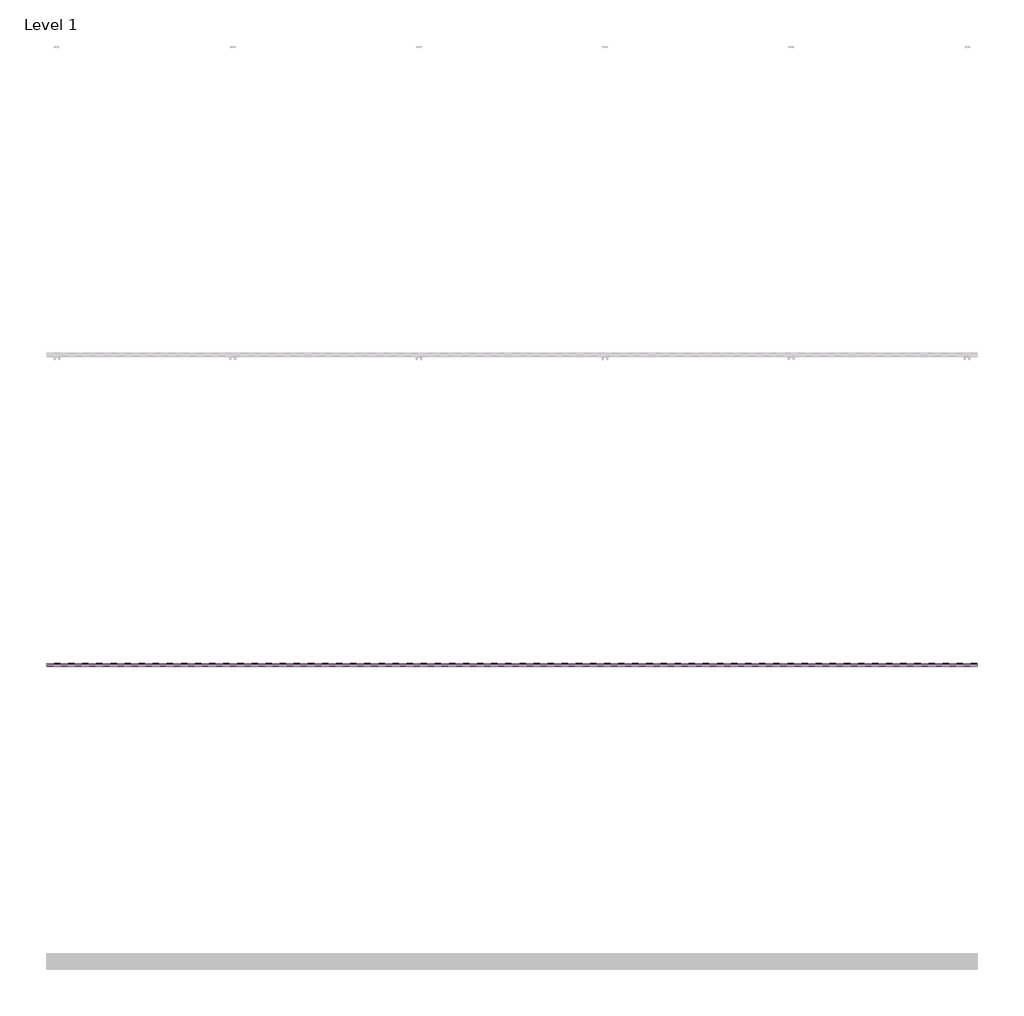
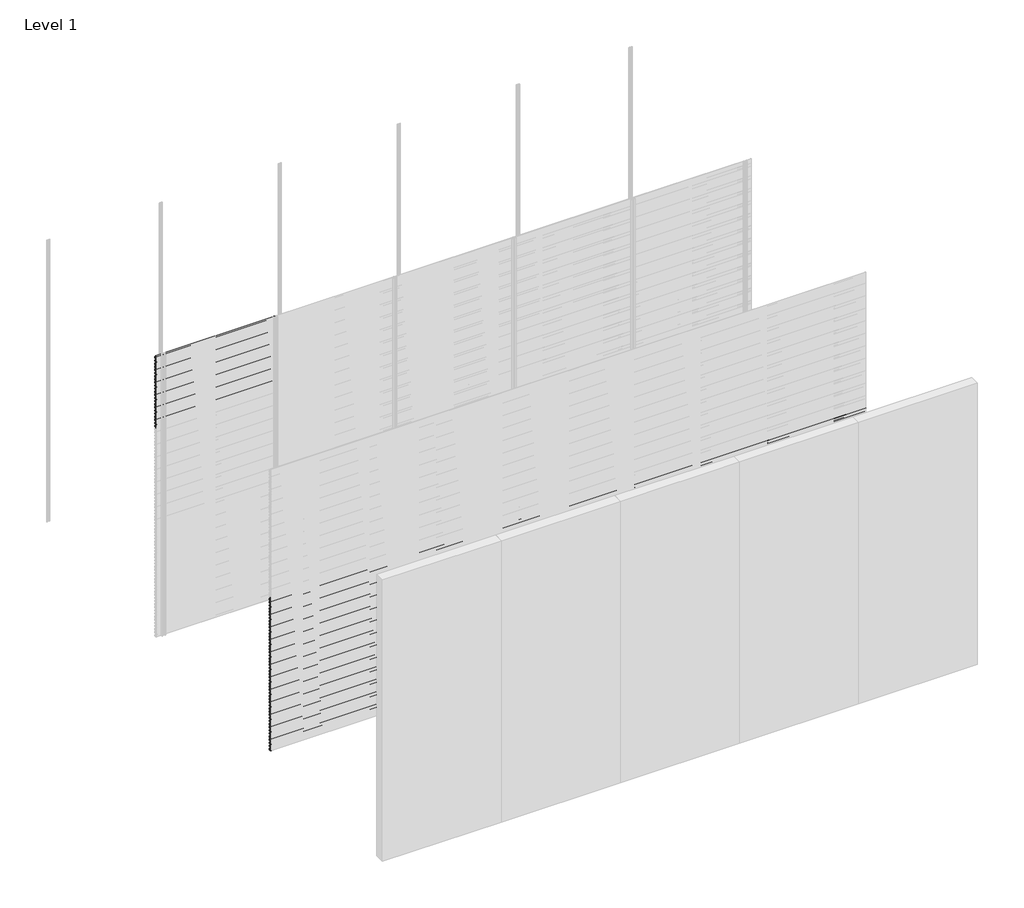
# One storey, part 64 of 77: 72 proxies.
"""IFC4 building model written with IfcOpenShell, lengths in millimetres."""

from ifc_helpers import new_model, si_unit, frame, origin, place, context, project, spatial, polyline, outline, extrude, element, save

model = new_model("IFC4")

# Units and contexts
model_context = context("Model", 3, world=origin())
ifc_project = project(units=[si_unit("LENGTHUNIT", "METRE", prefix="MILLI")], contexts=[model_context])

# Site, building, storey
site = spatial("IfcSite", under=ifc_project)
building = spatial("IfcBuilding", under=site)
storey = spatial("IfcBuildingStorey", under=building, Name="Level 1", Elevation=0.0)

# Proxies
placement = place(None, origin())
element("IfcBuildingElementProxy", 1, Name="Wall Sweeps", at=placement, inside=storey, context=model_context, shape_type="SweptSolid", body=[
    extrude(outline(polyline([(-5978.6, 2972.5359887), (-5998.0, 2983.7366691), (-5998.0, 2997.0), (-5997.0, 2997.0), (-5997.0, 2984.3191057), (-5977.6, 2973.1185105), (-5977.6, 2959.5185105), (-5978.6, 2961.0953129), (-5978.6, 2966.9032062), (-5995.9773817, 2958.8), (-5996.4, 2959.7063078), (-5978.6, 2968.0065841), (-5978.6, 2972.5359887)])), frame((0.0, 0.0, 0.0), z_axis=(1.0, 0.0, 0.0), x_axis=(0.0, 1.0, 0.0)), (0.0, 0.0, 1.0), 1200.0),
])
element("IfcBuildingElementProxy", 2, Name="Wall Sweeps", at=placement, inside=storey, context=model_context, shape_type="SweptSolid", body=[
    extrude(outline(polyline([(-5978.6, 2939.2359887), (-5998.0, 2950.4366691), (-5998.0, 2963.7), (-5997.0, 2963.7), (-5997.0, 2951.0191057), (-5977.6, 2939.8185105), (-5977.6, 2926.2185105), (-5978.6, 2927.7953129), (-5978.6, 2933.6032062), (-5995.9773817, 2925.5), (-5996.4, 2926.4063078), (-5978.6, 2934.7065841), (-5978.6, 2939.2359887)])), frame((0.0, 0.0, 0.0), z_axis=(1.0, 0.0, 0.0), x_axis=(0.0, 1.0, 0.0)), (0.0, 0.0, 1.0), 1200.0),
])
element("IfcBuildingElementProxy", 3, Name="Wall Sweeps", at=placement, inside=storey, context=model_context, shape_type="SweptSolid", body=[
    extrude(outline(polyline([(-5978.6, 2905.9359887), (-5998.0, 2917.1366691), (-5998.0, 2930.4), (-5997.0, 2930.4), (-5997.0, 2917.7191057), (-5977.6, 2906.5185105), (-5977.6, 2892.9185105), (-5978.6, 2894.4953129), (-5978.6, 2900.3032062), (-5995.9773817, 2892.2), (-5996.4, 2893.1063078), (-5978.6, 2901.4065841), (-5978.6, 2905.9359887)])), frame((0.0, 0.0, 0.0), z_axis=(1.0, 0.0, 0.0), x_axis=(0.0, 1.0, 0.0)), (0.0, 0.0, 1.0), 1200.0),
])
element("IfcBuildingElementProxy", 4, Name="Wall Sweeps", at=placement, inside=storey, context=model_context, shape_type="SweptSolid", body=[
    extrude(outline(polyline([(-5978.6, 2872.6359887), (-5998.0, 2883.8366691), (-5998.0, 2897.1), (-5997.0, 2897.1), (-5997.0, 2884.4191057), (-5977.6, 2873.2185105), (-5977.6, 2859.6185105), (-5978.6, 2861.1953129), (-5978.6, 2867.0032062), (-5995.9773817, 2858.9), (-5996.4, 2859.8063078), (-5978.6, 2868.1065841), (-5978.6, 2872.6359887)])), frame((0.0, 0.0, 0.0), z_axis=(1.0, 0.0, 0.0), x_axis=(0.0, 1.0, 0.0)), (0.0, 0.0, 1.0), 1200.0),
])
element("IfcBuildingElementProxy", 5, Name="Wall Sweeps", at=placement, inside=storey, context=model_context, shape_type="SweptSolid", body=[
    extrude(outline(polyline([(-5978.6, 2839.3359887), (-5998.0, 2850.5366691), (-5998.0, 2863.8), (-5997.0, 2863.8), (-5997.0, 2851.1191057), (-5977.6, 2839.9185105), (-5977.6, 2826.3185105), (-5978.6, 2827.8953129), (-5978.6, 2833.7032062), (-5995.9773817, 2825.6), (-5996.4, 2826.5063078), (-5978.6, 2834.8065841), (-5978.6, 2839.3359887)])), frame((0.0, 0.0, 0.0), z_axis=(1.0, 0.0, 0.0), x_axis=(0.0, 1.0, 0.0)), (0.0, 0.0, 1.0), 1200.0),
])
element("IfcBuildingElementProxy", 6, Name="Wall Sweeps", at=placement, inside=storey, context=model_context, shape_type="SweptSolid", body=[
    extrude(outline(polyline([(-5978.6, 2806.0359887), (-5998.0, 2817.2366691), (-5998.0, 2830.5), (-5997.0, 2830.5), (-5997.0, 2817.8191057), (-5977.6, 2806.6185105), (-5977.6, 2793.0185105), (-5978.6, 2794.5953129), (-5978.6, 2800.4032062), (-5995.9773817, 2792.3), (-5996.4, 2793.2063078), (-5978.6, 2801.5065841), (-5978.6, 2806.0359887)])), frame((0.0, 0.0, 0.0), z_axis=(1.0, 0.0, 0.0), x_axis=(0.0, 1.0, 0.0)), (0.0, 0.0, 1.0), 1200.0),
])
element("IfcBuildingElementProxy", 7, Name="Wall Sweeps", at=placement, inside=storey, context=model_context, shape_type="SweptSolid", body=[
    extrude(outline(polyline([(-5978.6, 2772.7359887), (-5998.0, 2783.9366691), (-5998.0, 2797.2), (-5997.0, 2797.2), (-5997.0, 2784.5191057), (-5977.6, 2773.3185105), (-5977.6, 2759.7185105), (-5978.6, 2761.2953129), (-5978.6, 2767.1032062), (-5995.9773817, 2759.0), (-5996.4, 2759.9063078), (-5978.6, 2768.2065841), (-5978.6, 2772.7359887)])), frame((0.0, 0.0, 0.0), z_axis=(1.0, 0.0, 0.0), x_axis=(0.0, 1.0, 0.0)), (0.0, 0.0, 1.0), 1200.0),
])
element("IfcBuildingElementProxy", 8, Name="Wall Sweeps", at=placement, inside=storey, context=model_context, shape_type="SweptSolid", body=[
    extrude(outline(polyline([(-5978.6, 2739.4359887), (-5998.0, 2750.6366691), (-5998.0, 2763.9), (-5997.0, 2763.9), (-5997.0, 2751.2191057), (-5977.6, 2740.0185105), (-5977.6, 2726.4185105), (-5978.6, 2727.9953129), (-5978.6, 2733.8032062), (-5995.9773817, 2725.7), (-5996.4, 2726.6063078), (-5978.6, 2734.9065841), (-5978.6, 2739.4359887)])), frame((0.0, 0.0, 0.0), z_axis=(1.0, 0.0, 0.0), x_axis=(0.0, 1.0, 0.0)), (0.0, 0.0, 1.0), 1200.0),
])
element("IfcBuildingElementProxy", 9, Name="Wall Sweeps", at=placement, inside=storey, context=model_context, shape_type="SweptSolid", body=[
    extrude(outline(polyline([(-5978.6, 2706.1359887), (-5998.0, 2717.3366691), (-5998.0, 2730.6), (-5997.0, 2730.6), (-5997.0, 2717.9191057), (-5977.6, 2706.7185105), (-5977.6, 2693.1185105), (-5978.6, 2694.6953129), (-5978.6, 2700.5032062), (-5995.9773817, 2692.4), (-5996.4, 2693.3063078), (-5978.6, 2701.6065841), (-5978.6, 2706.1359887)])), frame((0.0, 0.0, 0.0), z_axis=(1.0, 0.0, 0.0), x_axis=(0.0, 1.0, 0.0)), (0.0, 0.0, 1.0), 1200.0),
])
element("IfcBuildingElementProxy", 10, Name="Wall Sweeps", at=placement, inside=storey, context=model_context, shape_type="SweptSolid", body=[
    extrude(outline(polyline([(-5978.6, 2672.8359887), (-5998.0, 2684.0366691), (-5998.0, 2697.3), (-5997.0, 2697.3), (-5997.0, 2684.6191057), (-5977.6, 2673.4185105), (-5977.6, 2659.8185105), (-5978.6, 2661.3953129), (-5978.6, 2667.2032062), (-5995.9773817, 2659.1), (-5996.4, 2660.0063078), (-5978.6, 2668.3065841), (-5978.6, 2672.8359887)])), frame((0.0, 0.0, 0.0), z_axis=(1.0, 0.0, 0.0), x_axis=(0.0, 1.0, 0.0)), (0.0, 0.0, 1.0), 1200.0),
])
element("IfcBuildingElementProxy", 11, Name="Wall Sweeps", at=placement, inside=storey, context=model_context, shape_type="SweptSolid", body=[
    extrude(outline(polyline([(-5978.6, 2639.5359887), (-5998.0, 2650.7366691), (-5998.0, 2664.0), (-5997.0, 2664.0), (-5997.0, 2651.3191057), (-5977.6, 2640.1185105), (-5977.6, 2626.5185105), (-5978.6, 2628.0953129), (-5978.6, 2633.9032062), (-5995.9773817, 2625.8), (-5996.4, 2626.7063078), (-5978.6, 2635.0065841), (-5978.6, 2639.5359887)])), frame((0.0, 0.0, 0.0), z_axis=(1.0, 0.0, 0.0), x_axis=(0.0, 1.0, 0.0)), (0.0, 0.0, 1.0), 1200.0),
])
element("IfcBuildingElementProxy", 12, Name="Wall Sweeps", at=placement, inside=storey, context=model_context, shape_type="SweptSolid", body=[
    extrude(outline(polyline([(-5978.6, 2606.2359887), (-5998.0, 2617.4366691), (-5998.0, 2630.7), (-5997.0, 2630.7), (-5997.0, 2618.0191057), (-5977.6, 2606.8185105), (-5977.6, 2593.2185105), (-5978.6, 2594.7953129), (-5978.6, 2600.6032062), (-5995.9773817, 2592.5), (-5996.4, 2593.4063078), (-5978.6, 2601.7065841), (-5978.6, 2606.2359887)])), frame((0.0, 0.0, 0.0), z_axis=(1.0, 0.0, 0.0), x_axis=(0.0, 1.0, 0.0)), (0.0, 0.0, 1.0), 1200.0),
])
element("IfcBuildingElementProxy", 13, Name="Wall Sweeps", at=placement, inside=storey, context=model_context, shape_type="SweptSolid", body=[
    extrude(outline(polyline([(-5978.6, 2572.9359887), (-5998.0, 2584.1366691), (-5998.0, 2597.4), (-5997.0, 2597.4), (-5997.0, 2584.7191057), (-5977.6, 2573.5185105), (-5977.6, 2559.9185105), (-5978.6, 2561.4953129), (-5978.6, 2567.3032062), (-5995.9773817, 2559.2), (-5996.4, 2560.1063078), (-5978.6, 2568.4065841), (-5978.6, 2572.9359887)])), frame((0.0, 0.0, 0.0), z_axis=(1.0, 0.0, 0.0), x_axis=(0.0, 1.0, 0.0)), (0.0, 0.0, 1.0), 1200.0),
])
element("IfcBuildingElementProxy", 14, Name="Wall Sweeps", at=placement, inside=storey, context=model_context, shape_type="SweptSolid", body=[
    extrude(outline(polyline([(-5978.6, 2539.6359887), (-5998.0, 2550.8366691), (-5998.0, 2564.1), (-5997.0, 2564.1), (-5997.0, 2551.4191057), (-5977.6, 2540.2185105), (-5977.6, 2526.6185105), (-5978.6, 2528.1953129), (-5978.6, 2534.0032062), (-5995.9773817, 2525.9), (-5996.4, 2526.8063078), (-5978.6, 2535.1065841), (-5978.6, 2539.6359887)])), frame((0.0, 0.0, 0.0), z_axis=(1.0, 0.0, 0.0), x_axis=(0.0, 1.0, 0.0)), (0.0, 0.0, 1.0), 1200.0),
])
element("IfcBuildingElementProxy", 15, Name="Wall Sweeps", at=placement, inside=storey, context=model_context, shape_type="SweptSolid", body=[
    extrude(outline(polyline([(-5978.6, 2506.3359887), (-5998.0, 2517.5366691), (-5998.0, 2530.8), (-5997.0, 2530.8), (-5997.0, 2518.1191057), (-5977.6, 2506.9185105), (-5977.6, 2493.3185105), (-5978.6, 2494.8953129), (-5978.6, 2500.7032062), (-5995.9773817, 2492.6), (-5996.4, 2493.5063078), (-5978.6, 2501.8065841), (-5978.6, 2506.3359887)])), frame((0.0, 0.0, 0.0), z_axis=(1.0, 0.0, 0.0), x_axis=(0.0, 1.0, 0.0)), (0.0, 0.0, 1.0), 1200.0),
])
element("IfcBuildingElementProxy", 16, Name="Wall Sweeps", at=placement, inside=storey, context=model_context, shape_type="SweptSolid", body=[
    extrude(outline(polyline([(-5978.6, 2473.0359887), (-5998.0, 2484.2366691), (-5998.0, 2497.5), (-5997.0, 2497.5), (-5997.0, 2484.8191057), (-5977.6, 2473.6185105), (-5977.6, 2460.0185105), (-5978.6, 2461.5953129), (-5978.6, 2467.4032062), (-5995.9773817, 2459.3), (-5996.4, 2460.2063078), (-5978.6, 2468.5065841), (-5978.6, 2473.0359887)])), frame((0.0, 0.0, 0.0), z_axis=(1.0, 0.0, 0.0), x_axis=(0.0, 1.0, 0.0)), (0.0, 0.0, 1.0), 1200.0),
])
element("IfcBuildingElementProxy", 17, Name="Wall Sweeps", at=placement, inside=storey, context=model_context, shape_type="SweptSolid", body=[
    extrude(outline(polyline([(-5978.6, 2439.7359887), (-5998.0, 2450.9366691), (-5998.0, 2464.2), (-5997.0, 2464.2), (-5997.0, 2451.5191057), (-5977.6, 2440.3185105), (-5977.6, 2426.7185105), (-5978.6, 2428.2953129), (-5978.6, 2434.1032062), (-5995.9773817, 2426.0), (-5996.4, 2426.9063078), (-5978.6, 2435.2065841), (-5978.6, 2439.7359887)])), frame((0.0, 0.0, 0.0), z_axis=(1.0, 0.0, 0.0), x_axis=(0.0, 1.0, 0.0)), (0.0, 0.0, 1.0), 1200.0),
])
element("IfcBuildingElementProxy", 18, Name="Wall Sweeps", at=placement, inside=storey, context=model_context, shape_type="SweptSolid", body=[
    extrude(outline(polyline([(-5978.6, 2406.4359887), (-5998.0, 2417.6366691), (-5998.0, 2430.9), (-5997.0, 2430.9), (-5997.0, 2418.2191057), (-5977.6, 2407.0185105), (-5977.6, 2393.4185105), (-5978.6, 2394.9953129), (-5978.6, 2400.8032062), (-5995.9773817, 2392.7), (-5996.4, 2393.6063078), (-5978.6, 2401.9065841), (-5978.6, 2406.4359887)])), frame((0.0, 0.0, 0.0), z_axis=(1.0, 0.0, 0.0), x_axis=(0.0, 1.0, 0.0)), (0.0, 0.0, 1.0), 1200.0),
])
element("IfcBuildingElementProxy", 19, Name="Wall Sweeps", at=placement, inside=storey, context=model_context, shape_type="SweptSolid", body=[
    extrude(outline(polyline([(-5978.6, 2373.1359887), (-5998.0, 2384.3366691), (-5998.0, 2397.6), (-5997.0, 2397.6), (-5997.0, 2384.9191057), (-5977.6, 2373.7185105), (-5977.6, 2360.1185105), (-5978.6, 2361.6953129), (-5978.6, 2367.5032062), (-5995.9773817, 2359.4), (-5996.4, 2360.3063078), (-5978.6, 2368.6065841), (-5978.6, 2373.1359887)])), frame((0.0, 0.0, 0.0), z_axis=(1.0, 0.0, 0.0), x_axis=(0.0, 1.0, 0.0)), (0.0, 0.0, 1.0), 1200.0),
])
element("IfcBuildingElementProxy", 20, Name="Wall Sweeps", at=placement, inside=storey, context=model_context, shape_type="SweptSolid", body=[
    extrude(outline(polyline([(-5978.6, 2339.8359887), (-5998.0, 2351.0366691), (-5998.0, 2364.3), (-5997.0, 2364.3), (-5997.0, 2351.6191057), (-5977.6, 2340.4185105), (-5977.6, 2326.8185105), (-5978.6, 2328.3953129), (-5978.6, 2334.2032062), (-5995.9773817, 2326.1), (-5996.4, 2327.0063078), (-5978.6, 2335.3065841), (-5978.6, 2339.8359887)])), frame((0.0, 0.0, 0.0), z_axis=(1.0, 0.0, 0.0), x_axis=(0.0, 1.0, 0.0)), (0.0, 0.0, 1.0), 1200.0),
])
element("IfcBuildingElementProxy", 21, Name="Wall Sweeps", at=placement, inside=storey, context=model_context, shape_type="SweptSolid", body=[
    extrude(outline(polyline([(-5978.6, 2306.5359887), (-5998.0, 2317.7366691), (-5998.0, 2331.0), (-5997.0, 2331.0), (-5997.0, 2318.3191057), (-5977.6, 2307.1185105), (-5977.6, 2293.5185105), (-5978.6, 2295.0953129), (-5978.6, 2300.9032062), (-5995.9773817, 2292.8), (-5996.4, 2293.7063078), (-5978.6, 2302.0065841), (-5978.6, 2306.5359887)])), frame((0.0, 0.0, 0.0), z_axis=(1.0, 0.0, 0.0), x_axis=(0.0, 1.0, 0.0)), (0.0, 0.0, 1.0), 1200.0),
])
element("IfcBuildingElementProxy", 22, Name="Wall Sweeps", at=placement, inside=storey, context=model_context, shape_type="SweptSolid", body=[
    extrude(outline(polyline([(-5978.6, 2273.2359887), (-5998.0, 2284.4366691), (-5998.0, 2297.7), (-5997.0, 2297.7), (-5997.0, 2285.0191057), (-5977.6, 2273.8185105), (-5977.6, 2260.2185105), (-5978.6, 2261.7953129), (-5978.6, 2267.6032062), (-5995.9773817, 2259.5), (-5996.4, 2260.4063078), (-5978.6, 2268.7065841), (-5978.6, 2273.2359887)])), frame((0.0, 0.0, 0.0), z_axis=(1.0, 0.0, 0.0), x_axis=(0.0, 1.0, 0.0)), (0.0, 0.0, 1.0), 1200.0),
])
element("IfcBuildingElementProxy", 23, Name="Wall Sweeps", at=placement, inside=storey, context=model_context, shape_type="SweptSolid", body=[
    extrude(outline(polyline([(-5978.6, 2239.9359887), (-5998.0, 2251.1366691), (-5998.0, 2264.4), (-5997.0, 2264.4), (-5997.0, 2251.7191057), (-5977.6, 2240.5185105), (-5977.6, 2226.9185105), (-5978.6, 2228.4953129), (-5978.6, 2234.3032062), (-5995.9773817, 2226.2), (-5996.4, 2227.1063078), (-5978.6, 2235.4065841), (-5978.6, 2239.9359887)])), frame((0.0, 0.0, 0.0), z_axis=(1.0, 0.0, 0.0), x_axis=(0.0, 1.0, 0.0)), (0.0, 0.0, 1.0), 1200.0),
])
element("IfcBuildingElementProxy", 24, Name="Wall Sweeps", at=placement, inside=storey, context=model_context, shape_type="SweptSolid", body=[
    extrude(outline(polyline([(-7978.6, 1607.2359887), (-7998.0, 1618.4366691), (-7998.0, 1631.7), (-7997.0, 1631.7), (-7997.0, 1619.0191057), (-7977.6, 1607.8185105), (-7977.6, 1594.2185105), (-7978.6, 1595.7953129), (-7978.6, 1601.6032062), (-7995.9773817, 1593.5), (-7996.4, 1594.4063078), (-7978.6, 1602.7065841), (-7978.6, 1607.2359887)])), frame((0.0, 0.0, 0.0), z_axis=(1.0, 0.0, 0.0), x_axis=(0.0, 1.0, 0.0)), (0.0, 0.0, 1.0), 6000.0),
])
element("IfcBuildingElementProxy", 25, Name="Wall Sweeps", at=placement, inside=storey, context=model_context, shape_type="SweptSolid", body=[
    extrude(outline(polyline([(-7978.6, 1573.9359887), (-7998.0, 1585.1366691), (-7998.0, 1598.4), (-7997.0, 1598.4), (-7997.0, 1585.7191057), (-7977.6, 1574.5185105), (-7977.6, 1560.9185105), (-7978.6, 1562.4953129), (-7978.6, 1568.3032062), (-7995.9773817, 1560.2), (-7996.4, 1561.1063078), (-7978.6, 1569.4065841), (-7978.6, 1573.9359887)])), frame((0.0, 0.0, 0.0), z_axis=(1.0, 0.0, 0.0), x_axis=(0.0, 1.0, 0.0)), (0.0, 0.0, 1.0), 6000.0),
])
element("IfcBuildingElementProxy", 26, Name="Wall Sweeps", at=placement, inside=storey, context=model_context, shape_type="SweptSolid", body=[
    extrude(outline(polyline([(-7978.6, 1540.6359887), (-7998.0, 1551.8366691), (-7998.0, 1565.1), (-7997.0, 1565.1), (-7997.0, 1552.4191057), (-7977.6, 1541.2185105), (-7977.6, 1527.6185105), (-7978.6, 1529.1953129), (-7978.6, 1535.0032062), (-7995.9773817, 1526.9), (-7996.4, 1527.8063078), (-7978.6, 1536.1065841), (-7978.6, 1540.6359887)])), frame((0.0, 0.0, 0.0), z_axis=(1.0, 0.0, 0.0), x_axis=(0.0, 1.0, 0.0)), (0.0, 0.0, 1.0), 6000.0),
])
element("IfcBuildingElementProxy", 27, Name="Wall Sweeps", at=placement, inside=storey, context=model_context, shape_type="SweptSolid", body=[
    extrude(outline(polyline([(-7978.6, 1507.3359887), (-7998.0, 1518.5366691), (-7998.0, 1531.8), (-7997.0, 1531.8), (-7997.0, 1519.1191057), (-7977.6, 1507.9185105), (-7977.6, 1494.3185105), (-7978.6, 1495.8953129), (-7978.6, 1501.7032062), (-7995.9773817, 1493.6), (-7996.4, 1494.5063078), (-7978.6, 1502.8065841), (-7978.6, 1507.3359887)])), frame((0.0, 0.0, 0.0), z_axis=(1.0, 0.0, 0.0), x_axis=(0.0, 1.0, 0.0)), (0.0, 0.0, 1.0), 6000.0),
])
element("IfcBuildingElementProxy", 28, Name="Wall Sweeps", at=placement, inside=storey, context=model_context, shape_type="SweptSolid", body=[
    extrude(outline(polyline([(-7978.6, 1474.0359887), (-7998.0, 1485.2366691), (-7998.0, 1498.5), (-7997.0, 1498.5), (-7997.0, 1485.8191057), (-7977.6, 1474.6185105), (-7977.6, 1461.0185105), (-7978.6, 1462.5953129), (-7978.6, 1468.4032062), (-7995.9773817, 1460.3), (-7996.4, 1461.2063078), (-7978.6, 1469.5065841), (-7978.6, 1474.0359887)])), frame((0.0, 0.0, 0.0), z_axis=(1.0, 0.0, 0.0), x_axis=(0.0, 1.0, 0.0)), (0.0, 0.0, 1.0), 6000.0),
])
element("IfcBuildingElementProxy", 29, Name="Wall Sweeps", at=placement, inside=storey, context=model_context, shape_type="SweptSolid", body=[
    extrude(outline(polyline([(-7978.6, 1440.7359887), (-7998.0, 1451.9366691), (-7998.0, 1465.2), (-7997.0, 1465.2), (-7997.0, 1452.5191057), (-7977.6, 1441.3185105), (-7977.6, 1427.7185105), (-7978.6, 1429.2953129), (-7978.6, 1435.1032062), (-7995.9773817, 1427.0), (-7996.4, 1427.9063078), (-7978.6, 1436.2065841), (-7978.6, 1440.7359887)])), frame((0.0, 0.0, 0.0), z_axis=(1.0, 0.0, 0.0), x_axis=(0.0, 1.0, 0.0)), (0.0, 0.0, 1.0), 6000.0),
])
element("IfcBuildingElementProxy", 30, Name="Wall Sweeps", at=placement, inside=storey, context=model_context, shape_type="SweptSolid", body=[
    extrude(outline(polyline([(-7978.6, 1407.4359887), (-7998.0, 1418.6366691), (-7998.0, 1431.9), (-7997.0, 1431.9), (-7997.0, 1419.2191057), (-7977.6, 1408.0185105), (-7977.6, 1394.4185105), (-7978.6, 1395.9953129), (-7978.6, 1401.8032062), (-7995.9773817, 1393.7), (-7996.4, 1394.6063078), (-7978.6, 1402.9065841), (-7978.6, 1407.4359887)])), frame((0.0, 0.0, 0.0), z_axis=(1.0, 0.0, 0.0), x_axis=(0.0, 1.0, 0.0)), (0.0, 0.0, 1.0), 6000.0),
])
element("IfcBuildingElementProxy", 31, Name="Wall Sweeps", at=placement, inside=storey, context=model_context, shape_type="SweptSolid", body=[
    extrude(outline(polyline([(-7978.6, 1374.1359887), (-7998.0, 1385.3366691), (-7998.0, 1398.6), (-7997.0, 1398.6), (-7997.0, 1385.9191057), (-7977.6, 1374.7185105), (-7977.6, 1361.1185105), (-7978.6, 1362.6953129), (-7978.6, 1368.5032062), (-7995.9773817, 1360.4), (-7996.4, 1361.3063078), (-7978.6, 1369.6065841), (-7978.6, 1374.1359887)])), frame((0.0, 0.0, 0.0), z_axis=(1.0, 0.0, 0.0), x_axis=(0.0, 1.0, 0.0)), (0.0, 0.0, 1.0), 6000.0),
])
element("IfcBuildingElementProxy", 32, Name="Wall Sweeps", at=placement, inside=storey, context=model_context, shape_type="SweptSolid", body=[
    extrude(outline(polyline([(-7978.6, 1340.8359887), (-7998.0, 1352.0366691), (-7998.0, 1365.3), (-7997.0, 1365.3), (-7997.0, 1352.6191057), (-7977.6, 1341.4185105), (-7977.6, 1327.8185105), (-7978.6, 1329.3953129), (-7978.6, 1335.2032062), (-7995.9773817, 1327.1), (-7996.4, 1328.0063078), (-7978.6, 1336.3065841), (-7978.6, 1340.8359887)])), frame((0.0, 0.0, 0.0), z_axis=(1.0, 0.0, 0.0), x_axis=(0.0, 1.0, 0.0)), (0.0, 0.0, 1.0), 6000.0),
])
element("IfcBuildingElementProxy", 33, Name="Wall Sweeps", at=placement, inside=storey, context=model_context, shape_type="SweptSolid", body=[
    extrude(outline(polyline([(-7978.6, 1307.5359887), (-7998.0, 1318.7366691), (-7998.0, 1332.0), (-7997.0, 1332.0), (-7997.0, 1319.3191057), (-7977.6, 1308.1185105), (-7977.6, 1294.5185105), (-7978.6, 1296.0953129), (-7978.6, 1301.9032062), (-7995.9773817, 1293.8), (-7996.4, 1294.7063078), (-7978.6, 1303.0065841), (-7978.6, 1307.5359887)])), frame((0.0, 0.0, 0.0), z_axis=(1.0, 0.0, 0.0), x_axis=(0.0, 1.0, 0.0)), (0.0, 0.0, 1.0), 6000.0),
])
element("IfcBuildingElementProxy", 34, Name="Wall Sweeps", at=placement, inside=storey, context=model_context, shape_type="SweptSolid", body=[
    extrude(outline(polyline([(-7978.6, 1274.2359887), (-7998.0, 1285.4366691), (-7998.0, 1298.7), (-7997.0, 1298.7), (-7997.0, 1286.0191057), (-7977.6, 1274.8185105), (-7977.6, 1261.2185105), (-7978.6, 1262.7953129), (-7978.6, 1268.6032062), (-7995.9773817, 1260.5), (-7996.4, 1261.4063078), (-7978.6, 1269.7065841), (-7978.6, 1274.2359887)])), frame((0.0, 0.0, 0.0), z_axis=(1.0, 0.0, 0.0), x_axis=(0.0, 1.0, 0.0)), (0.0, 0.0, 1.0), 6000.0),
])
element("IfcBuildingElementProxy", 35, Name="Wall Sweeps", at=placement, inside=storey, context=model_context, shape_type="SweptSolid", body=[
    extrude(outline(polyline([(-7978.6, 1240.9359887), (-7998.0, 1252.1366691), (-7998.0, 1265.4), (-7997.0, 1265.4), (-7997.0, 1252.7191057), (-7977.6, 1241.5185105), (-7977.6, 1227.9185105), (-7978.6, 1229.4953129), (-7978.6, 1235.3032062), (-7995.9773817, 1227.2), (-7996.4, 1228.1063078), (-7978.6, 1236.4065841), (-7978.6, 1240.9359887)])), frame((0.0, 0.0, 0.0), z_axis=(1.0, 0.0, 0.0), x_axis=(0.0, 1.0, 0.0)), (0.0, 0.0, 1.0), 6000.0),
])
element("IfcBuildingElementProxy", 36, Name="Wall Sweeps", at=placement, inside=storey, context=model_context, shape_type="SweptSolid", body=[
    extrude(outline(polyline([(-7978.6, 1207.6359887), (-7998.0, 1218.8366691), (-7998.0, 1232.1), (-7997.0, 1232.1), (-7997.0, 1219.4191057), (-7977.6, 1208.2185105), (-7977.6, 1194.6185105), (-7978.6, 1196.1953129), (-7978.6, 1202.0032062), (-7995.9773817, 1193.9), (-7996.4, 1194.8063078), (-7978.6, 1203.1065841), (-7978.6, 1207.6359887)])), frame((0.0, 0.0, 0.0), z_axis=(1.0, 0.0, 0.0), x_axis=(0.0, 1.0, 0.0)), (0.0, 0.0, 1.0), 6000.0),
])
element("IfcBuildingElementProxy", 37, Name="Wall Sweeps", at=placement, inside=storey, context=model_context, shape_type="SweptSolid", body=[
    extrude(outline(polyline([(-7978.6, 1174.3359887), (-7998.0, 1185.5366691), (-7998.0, 1198.8), (-7997.0, 1198.8), (-7997.0, 1186.1191057), (-7977.6, 1174.9185105), (-7977.6, 1161.3185105), (-7978.6, 1162.8953129), (-7978.6, 1168.7032062), (-7995.9773817, 1160.6), (-7996.4, 1161.5063078), (-7978.6, 1169.8065841), (-7978.6, 1174.3359887)])), frame((0.0, 0.0, 0.0), z_axis=(1.0, 0.0, 0.0), x_axis=(0.0, 1.0, 0.0)), (0.0, 0.0, 1.0), 6000.0),
])
element("IfcBuildingElementProxy", 38, Name="Wall Sweeps", at=placement, inside=storey, context=model_context, shape_type="SweptSolid", body=[
    extrude(outline(polyline([(-7978.6, 1141.0359887), (-7998.0, 1152.2366691), (-7998.0, 1165.5), (-7997.0, 1165.5), (-7997.0, 1152.8191057), (-7977.6, 1141.6185105), (-7977.6, 1128.0185105), (-7978.6, 1129.5953129), (-7978.6, 1135.4032062), (-7995.9773817, 1127.3), (-7996.4, 1128.2063078), (-7978.6, 1136.5065841), (-7978.6, 1141.0359887)])), frame((0.0, 0.0, 0.0), z_axis=(1.0, 0.0, 0.0), x_axis=(0.0, 1.0, 0.0)), (0.0, 0.0, 1.0), 6000.0),
])
element("IfcBuildingElementProxy", 39, Name="Wall Sweeps", at=placement, inside=storey, context=model_context, shape_type="SweptSolid", body=[
    extrude(outline(polyline([(-7978.6, 1107.7359887), (-7998.0, 1118.9366691), (-7998.0, 1132.2), (-7997.0, 1132.2), (-7997.0, 1119.5191057), (-7977.6, 1108.3185105), (-7977.6, 1094.7185105), (-7978.6, 1096.2953129), (-7978.6, 1102.1032062), (-7995.9773817, 1094.0), (-7996.4, 1094.9063078), (-7978.6, 1103.2065841), (-7978.6, 1107.7359887)])), frame((0.0, 0.0, 0.0), z_axis=(1.0, 0.0, 0.0), x_axis=(0.0, 1.0, 0.0)), (0.0, 0.0, 1.0), 6000.0),
])
element("IfcBuildingElementProxy", 40, Name="Wall Sweeps", at=placement, inside=storey, context=model_context, shape_type="SweptSolid", body=[
    extrude(outline(polyline([(-7978.6, 1074.4359887), (-7998.0, 1085.6366691), (-7998.0, 1098.9), (-7997.0, 1098.9), (-7997.0, 1086.2191057), (-7977.6, 1075.0185105), (-7977.6, 1061.4185105), (-7978.6, 1062.9953129), (-7978.6, 1068.8032062), (-7995.9773817, 1060.7), (-7996.4, 1061.6063078), (-7978.6, 1069.9065841), (-7978.6, 1074.4359887)])), frame((0.0, 0.0, 0.0), z_axis=(1.0, 0.0, 0.0), x_axis=(0.0, 1.0, 0.0)), (0.0, 0.0, 1.0), 6000.0),
])
element("IfcBuildingElementProxy", 41, Name="Wall Sweeps", at=placement, inside=storey, context=model_context, shape_type="SweptSolid", body=[
    extrude(outline(polyline([(-7978.6, 1041.1359887), (-7998.0, 1052.3366691), (-7998.0, 1065.6), (-7997.0, 1065.6), (-7997.0, 1052.9191057), (-7977.6, 1041.7185105), (-7977.6, 1028.1185105), (-7978.6, 1029.6953129), (-7978.6, 1035.5032062), (-7995.9773817, 1027.4), (-7996.4, 1028.3063078), (-7978.6, 1036.6065841), (-7978.6, 1041.1359887)])), frame((0.0, 0.0, 0.0), z_axis=(1.0, 0.0, 0.0), x_axis=(0.0, 1.0, 0.0)), (0.0, 0.0, 1.0), 6000.0),
])
element("IfcBuildingElementProxy", 42, Name="Wall Sweeps", at=placement, inside=storey, context=model_context, shape_type="SweptSolid", body=[
    extrude(outline(polyline([(-7978.6, 1007.8359887), (-7998.0, 1019.0366691), (-7998.0, 1032.3), (-7997.0, 1032.3), (-7997.0, 1019.6191057), (-7977.6, 1008.4185105), (-7977.6, 994.8185105), (-7978.6, 996.3953129), (-7978.6, 1002.2032062), (-7995.9773817, 994.1), (-7996.4, 995.0063078), (-7978.6, 1003.3065841), (-7978.6, 1007.8359887)])), frame((0.0, 0.0, 0.0), z_axis=(1.0, 0.0, 0.0), x_axis=(0.0, 1.0, 0.0)), (0.0, 0.0, 1.0), 6000.0),
])
element("IfcBuildingElementProxy", 43, Name="Wall Sweeps", at=placement, inside=storey, context=model_context, shape_type="SweptSolid", body=[
    extrude(outline(polyline([(-7978.6, 974.5359887), (-7998.0, 985.7366691), (-7998.0, 999.0), (-7997.0, 999.0), (-7997.0, 986.3191057), (-7977.6, 975.1185105), (-7977.6, 961.5185105), (-7978.6, 963.0953129), (-7978.6, 968.9032062), (-7995.9773817, 960.8), (-7996.4, 961.7063078), (-7978.6, 970.0065841), (-7978.6, 974.5359887)])), frame((0.0, 0.0, 0.0), z_axis=(1.0, 0.0, 0.0), x_axis=(0.0, 1.0, 0.0)), (0.0, 0.0, 1.0), 6000.0),
])
element("IfcBuildingElementProxy", 44, Name="Wall Sweeps", at=placement, inside=storey, context=model_context, shape_type="SweptSolid", body=[
    extrude(outline(polyline([(-7978.6, 941.2359887), (-7998.0, 952.4366691), (-7998.0, 965.7), (-7997.0, 965.7), (-7997.0, 953.0191057), (-7977.6, 941.8185105), (-7977.6, 928.2185105), (-7978.6, 929.7953129), (-7978.6, 935.6032062), (-7995.9773817, 927.5), (-7996.4, 928.4063078), (-7978.6, 936.7065841), (-7978.6, 941.2359887)])), frame((0.0, 0.0, 0.0), z_axis=(1.0, 0.0, 0.0), x_axis=(0.0, 1.0, 0.0)), (0.0, 0.0, 1.0), 6000.0),
])
element("IfcBuildingElementProxy", 45, Name="Wall Sweeps", at=placement, inside=storey, context=model_context, shape_type="SweptSolid", body=[
    extrude(outline(polyline([(-7978.6, 907.9359887), (-7998.0, 919.1366691), (-7998.0, 932.4), (-7997.0, 932.4), (-7997.0, 919.7191057), (-7977.6, 908.5185105), (-7977.6, 894.9185105), (-7978.6, 896.4953129), (-7978.6, 902.3032062), (-7995.9773817, 894.2), (-7996.4, 895.1063078), (-7978.6, 903.4065841), (-7978.6, 907.9359887)])), frame((0.0, 0.0, 0.0), z_axis=(1.0, 0.0, 0.0), x_axis=(0.0, 1.0, 0.0)), (0.0, 0.0, 1.0), 6000.0),
])
element("IfcBuildingElementProxy", 46, Name="Wall Sweeps", at=placement, inside=storey, context=model_context, shape_type="SweptSolid", body=[
    extrude(outline(polyline([(-7978.6, 874.6359887), (-7998.0, 885.8366691), (-7998.0, 899.1), (-7997.0, 899.1), (-7997.0, 886.4191057), (-7977.6, 875.2185105), (-7977.6, 861.6185105), (-7978.6, 863.1953129), (-7978.6, 869.0032062), (-7995.9773817, 860.9), (-7996.4, 861.8063078), (-7978.6, 870.1065841), (-7978.6, 874.6359887)])), frame((0.0, 0.0, 0.0), z_axis=(1.0, 0.0, 0.0), x_axis=(0.0, 1.0, 0.0)), (0.0, 0.0, 1.0), 6000.0),
])
element("IfcBuildingElementProxy", 47, Name="Wall Sweeps", at=placement, inside=storey, context=model_context, shape_type="SweptSolid", body=[
    extrude(outline(polyline([(-7978.6, 841.3359887), (-7998.0, 852.5366691), (-7998.0, 865.8), (-7997.0, 865.8), (-7997.0, 853.1191057), (-7977.6, 841.9185105), (-7977.6, 828.3185105), (-7978.6, 829.8953129), (-7978.6, 835.7032062), (-7995.9773817, 827.6), (-7996.4, 828.5063078), (-7978.6, 836.8065841), (-7978.6, 841.3359887)])), frame((0.0, 0.0, 0.0), z_axis=(1.0, 0.0, 0.0), x_axis=(0.0, 1.0, 0.0)), (0.0, 0.0, 1.0), 6000.0),
])
element("IfcBuildingElementProxy", 48, Name="Wall Sweeps", at=placement, inside=storey, context=model_context, shape_type="SweptSolid", body=[
    extrude(outline(polyline([(-7978.6, 808.0359887), (-7998.0, 819.2366691), (-7998.0, 832.5), (-7997.0, 832.5), (-7997.0, 819.8191057), (-7977.6, 808.6185105), (-7977.6, 795.0185105), (-7978.6, 796.5953129), (-7978.6, 802.4032062), (-7995.9773817, 794.3), (-7996.4, 795.2063078), (-7978.6, 803.5065841), (-7978.6, 808.0359887)])), frame((0.0, 0.0, 0.0), z_axis=(1.0, 0.0, 0.0), x_axis=(0.0, 1.0, 0.0)), (0.0, 0.0, 1.0), 6000.0),
])
element("IfcBuildingElementProxy", 49, Name="Wall Sweeps", at=placement, inside=storey, context=model_context, shape_type="SweptSolid", body=[
    extrude(outline(polyline([(-7978.6, 774.7359887), (-7998.0, 785.9366691), (-7998.0, 799.2), (-7997.0, 799.2), (-7997.0, 786.5191057), (-7977.6, 775.3185105), (-7977.6, 761.7185105), (-7978.6, 763.2953129), (-7978.6, 769.1032062), (-7995.9773817, 761.0), (-7996.4, 761.9063078), (-7978.6, 770.2065841), (-7978.6, 774.7359887)])), frame((0.0, 0.0, 0.0), z_axis=(1.0, 0.0, 0.0), x_axis=(0.0, 1.0, 0.0)), (0.0, 0.0, 1.0), 6000.0),
])
element("IfcBuildingElementProxy", 50, Name="Wall Sweeps", at=placement, inside=storey, context=model_context, shape_type="SweptSolid", body=[
    extrude(outline(polyline([(-7978.6, 741.4359887), (-7998.0, 752.6366691), (-7998.0, 765.9), (-7997.0, 765.9), (-7997.0, 753.2191057), (-7977.6, 742.0185105), (-7977.6, 728.4185105), (-7978.6, 729.9953129), (-7978.6, 735.8032062), (-7995.9773817, 727.7), (-7996.4, 728.6063078), (-7978.6, 736.9065841), (-7978.6, 741.4359887)])), frame((0.0, 0.0, 0.0), z_axis=(1.0, 0.0, 0.0), x_axis=(0.0, 1.0, 0.0)), (0.0, 0.0, 1.0), 6000.0),
])
element("IfcBuildingElementProxy", 51, Name="Wall Sweeps", at=placement, inside=storey, context=model_context, shape_type="SweptSolid", body=[
    extrude(outline(polyline([(-7978.6, 708.1359887), (-7998.0, 719.3366691), (-7998.0, 732.6), (-7997.0, 732.6), (-7997.0, 719.9191057), (-7977.6, 708.7185105), (-7977.6, 695.1185105), (-7978.6, 696.6953129), (-7978.6, 702.5032062), (-7995.9773817, 694.4), (-7996.4, 695.3063078), (-7978.6, 703.6065841), (-7978.6, 708.1359887)])), frame((0.0, 0.0, 0.0), z_axis=(1.0, 0.0, 0.0), x_axis=(0.0, 1.0, 0.0)), (0.0, 0.0, 1.0), 6000.0),
])
element("IfcBuildingElementProxy", 52, Name="Wall Sweeps", at=placement, inside=storey, context=model_context, shape_type="SweptSolid", body=[
    extrude(outline(polyline([(-7978.6, 674.8359887), (-7998.0, 686.0366691), (-7998.0, 699.3), (-7997.0, 699.3), (-7997.0, 686.6191057), (-7977.6, 675.4185105), (-7977.6, 661.8185105), (-7978.6, 663.3953129), (-7978.6, 669.2032062), (-7995.9773817, 661.1), (-7996.4, 662.0063078), (-7978.6, 670.3065841), (-7978.6, 674.8359887)])), frame((0.0, 0.0, 0.0), z_axis=(1.0, 0.0, 0.0), x_axis=(0.0, 1.0, 0.0)), (0.0, 0.0, 1.0), 6000.0),
])
element("IfcBuildingElementProxy", 53, Name="Wall Sweeps", at=placement, inside=storey, context=model_context, shape_type="SweptSolid", body=[
    extrude(outline(polyline([(-7978.6, 641.5359887), (-7998.0, 652.7366691), (-7998.0, 666.0), (-7997.0, 666.0), (-7997.0, 653.3191057), (-7977.6, 642.1185105), (-7977.6, 628.5185105), (-7978.6, 630.0953129), (-7978.6, 635.9032062), (-7995.9773817, 627.8), (-7996.4, 628.7063078), (-7978.6, 637.0065841), (-7978.6, 641.5359887)])), frame((0.0, 0.0, 0.0), z_axis=(1.0, 0.0, 0.0), x_axis=(0.0, 1.0, 0.0)), (0.0, 0.0, 1.0), 6000.0),
])
element("IfcBuildingElementProxy", 54, Name="Wall Sweeps", at=placement, inside=storey, context=model_context, shape_type="SweptSolid", body=[
    extrude(outline(polyline([(-7978.6, 608.2359887), (-7998.0, 619.4366691), (-7998.0, 632.7), (-7997.0, 632.7), (-7997.0, 620.0191057), (-7977.6, 608.8185105), (-7977.6, 595.2185105), (-7978.6, 596.7953129), (-7978.6, 602.6032062), (-7995.9773817, 594.5), (-7996.4, 595.4063078), (-7978.6, 603.7065841), (-7978.6, 608.2359887)])), frame((0.0, 0.0, 0.0), z_axis=(1.0, 0.0, 0.0), x_axis=(0.0, 1.0, 0.0)), (0.0, 0.0, 1.0), 6000.0),
])
element("IfcBuildingElementProxy", 55, Name="Wall Sweeps", at=placement, inside=storey, context=model_context, shape_type="SweptSolid", body=[
    extrude(outline(polyline([(-7978.6, 574.9359887), (-7998.0, 586.1366691), (-7998.0, 599.4), (-7997.0, 599.4), (-7997.0, 586.7191057), (-7977.6, 575.5185105), (-7977.6, 561.9185105), (-7978.6, 563.4953129), (-7978.6, 569.3032062), (-7995.9773817, 561.2), (-7996.4, 562.1063078), (-7978.6, 570.4065841), (-7978.6, 574.9359887)])), frame((0.0, 0.0, 0.0), z_axis=(1.0, 0.0, 0.0), x_axis=(0.0, 1.0, 0.0)), (0.0, 0.0, 1.0), 6000.0),
])
element("IfcBuildingElementProxy", 56, Name="Wall Sweeps", at=placement, inside=storey, context=model_context, shape_type="SweptSolid", body=[
    extrude(outline(polyline([(-7978.6, 541.6359887), (-7998.0, 552.8366691), (-7998.0, 566.1), (-7997.0, 566.1), (-7997.0, 553.4191057), (-7977.6, 542.2185105), (-7977.6, 528.6185105), (-7978.6, 530.1953129), (-7978.6, 536.0032062), (-7995.9773817, 527.9), (-7996.4, 528.8063078), (-7978.6, 537.1065841), (-7978.6, 541.6359887)])), frame((0.0, 0.0, 0.0), z_axis=(1.0, 0.0, 0.0), x_axis=(0.0, 1.0, 0.0)), (0.0, 0.0, 1.0), 6000.0),
])
element("IfcBuildingElementProxy", 57, Name="Wall Sweeps", at=placement, inside=storey, context=model_context, shape_type="SweptSolid", body=[
    extrude(outline(polyline([(-7978.6, 508.3359887), (-7998.0, 519.5366691), (-7998.0, 532.8), (-7997.0, 532.8), (-7997.0, 520.1191057), (-7977.6, 508.9185105), (-7977.6, 495.3185105), (-7978.6, 496.8953129), (-7978.6, 502.7032062), (-7995.9773817, 494.6), (-7996.4, 495.5063078), (-7978.6, 503.8065841), (-7978.6, 508.3359887)])), frame((0.0, 0.0, 0.0), z_axis=(1.0, 0.0, 0.0), x_axis=(0.0, 1.0, 0.0)), (0.0, 0.0, 1.0), 6000.0),
])
element("IfcBuildingElementProxy", 58, Name="Wall Sweeps", at=placement, inside=storey, context=model_context, shape_type="SweptSolid", body=[
    extrude(outline(polyline([(-7978.6, 475.0359887), (-7998.0, 486.2366691), (-7998.0, 499.5), (-7997.0, 499.5), (-7997.0, 486.8191057), (-7977.6, 475.6185105), (-7977.6, 462.0185105), (-7978.6, 463.5953129), (-7978.6, 469.4032062), (-7995.9773817, 461.3), (-7996.4, 462.2063078), (-7978.6, 470.5065841), (-7978.6, 475.0359887)])), frame((0.0, 0.0, 0.0), z_axis=(1.0, 0.0, 0.0), x_axis=(0.0, 1.0, 0.0)), (0.0, 0.0, 1.0), 6000.0),
])
element("IfcBuildingElementProxy", 59, Name="Wall Sweeps", at=placement, inside=storey, context=model_context, shape_type="SweptSolid", body=[
    extrude(outline(polyline([(-7978.6, 441.7359887), (-7998.0, 452.9366691), (-7998.0, 466.2), (-7997.0, 466.2), (-7997.0, 453.5191057), (-7977.6, 442.3185105), (-7977.6, 428.7185105), (-7978.6, 430.2953129), (-7978.6, 436.1032062), (-7995.9773817, 428.0), (-7996.4, 428.9063078), (-7978.6, 437.2065841), (-7978.6, 441.7359887)])), frame((0.0, 0.0, 0.0), z_axis=(1.0, 0.0, 0.0), x_axis=(0.0, 1.0, 0.0)), (0.0, 0.0, 1.0), 6000.0),
])
element("IfcBuildingElementProxy", 60, Name="Wall Sweeps", at=placement, inside=storey, context=model_context, shape_type="SweptSolid", body=[
    extrude(outline(polyline([(-7978.6, 408.4359887), (-7998.0, 419.6366691), (-7998.0, 432.9), (-7997.0, 432.9), (-7997.0, 420.2191057), (-7977.6, 409.0185105), (-7977.6, 395.4185105), (-7978.6, 396.9953129), (-7978.6, 402.8032062), (-7995.9773817, 394.7), (-7996.4, 395.6063078), (-7978.6, 403.9065841), (-7978.6, 408.4359887)])), frame((0.0, 0.0, 0.0), z_axis=(1.0, 0.0, 0.0), x_axis=(0.0, 1.0, 0.0)), (0.0, 0.0, 1.0), 6000.0),
])
element("IfcBuildingElementProxy", 61, Name="Wall Sweeps", at=placement, inside=storey, context=model_context, shape_type="SweptSolid", body=[
    extrude(outline(polyline([(-7978.6, 375.1359887), (-7998.0, 386.3366691), (-7998.0, 399.6), (-7997.0, 399.6), (-7997.0, 386.9191057), (-7977.6, 375.7185105), (-7977.6, 362.1185105), (-7978.6, 363.6953129), (-7978.6, 369.5032062), (-7995.9773817, 361.4), (-7996.4, 362.3063078), (-7978.6, 370.6065841), (-7978.6, 375.1359887)])), frame((0.0, 0.0, 0.0), z_axis=(1.0, 0.0, 0.0), x_axis=(0.0, 1.0, 0.0)), (0.0, 0.0, 1.0), 6000.0),
])
element("IfcBuildingElementProxy", 62, Name="Wall Sweeps", at=placement, inside=storey, context=model_context, shape_type="SweptSolid", body=[
    extrude(outline(polyline([(-7978.6, 341.8359887), (-7998.0, 353.0366691), (-7998.0, 366.3), (-7997.0, 366.3), (-7997.0, 353.6191057), (-7977.6, 342.4185105), (-7977.6, 328.8185105), (-7978.6, 330.3953129), (-7978.6, 336.2032062), (-7995.9773817, 328.1), (-7996.4, 329.0063078), (-7978.6, 337.3065841), (-7978.6, 341.8359887)])), frame((0.0, 0.0, 0.0), z_axis=(1.0, 0.0, 0.0), x_axis=(0.0, 1.0, 0.0)), (0.0, 0.0, 1.0), 6000.0),
])
element("IfcBuildingElementProxy", 63, Name="Wall Sweeps", at=placement, inside=storey, context=model_context, shape_type="SweptSolid", body=[
    extrude(outline(polyline([(-7978.6, 308.5359887), (-7998.0, 319.7366691), (-7998.0, 333.0), (-7997.0, 333.0), (-7997.0, 320.3191057), (-7977.6, 309.1185105), (-7977.6, 295.5185105), (-7978.6, 297.0953129), (-7978.6, 302.9032062), (-7995.9773817, 294.8), (-7996.4, 295.7063078), (-7978.6, 304.0065841), (-7978.6, 308.5359887)])), frame((0.0, 0.0, 0.0), z_axis=(1.0, 0.0, 0.0), x_axis=(0.0, 1.0, 0.0)), (0.0, 0.0, 1.0), 6000.0),
])
element("IfcBuildingElementProxy", 64, Name="Wall Sweeps", at=placement, inside=storey, context=model_context, shape_type="SweptSolid", body=[
    extrude(outline(polyline([(-7978.6, 275.2359887), (-7998.0, 286.4366691), (-7998.0, 299.7), (-7997.0, 299.7), (-7997.0, 287.0191057), (-7977.6, 275.8185105), (-7977.6, 262.2185105), (-7978.6, 263.7953129), (-7978.6, 269.6032062), (-7995.9773817, 261.5), (-7996.4, 262.4063078), (-7978.6, 270.7065841), (-7978.6, 275.2359887)])), frame((0.0, 0.0, 0.0), z_axis=(1.0, 0.0, 0.0), x_axis=(0.0, 1.0, 0.0)), (0.0, 0.0, 1.0), 6000.0),
])
element("IfcBuildingElementProxy", 65, Name="Wall Sweeps", at=placement, inside=storey, context=model_context, shape_type="SweptSolid", body=[
    extrude(outline(polyline([(-7978.6, 241.9359887), (-7998.0, 253.1366691), (-7998.0, 266.4), (-7997.0, 266.4), (-7997.0, 253.7191057), (-7977.6, 242.5185105), (-7977.6, 228.9185105), (-7978.6, 230.4953129), (-7978.6, 236.3032062), (-7995.9773817, 228.2), (-7996.4, 229.1063078), (-7978.6, 237.4065841), (-7978.6, 241.9359887)])), frame((0.0, 0.0, 0.0), z_axis=(1.0, 0.0, 0.0), x_axis=(0.0, 1.0, 0.0)), (0.0, 0.0, 1.0), 6000.0),
])
element("IfcBuildingElementProxy", 66, Name="Wall Sweeps", at=placement, inside=storey, context=model_context, shape_type="SweptSolid", body=[
    extrude(outline(polyline([(-7978.6, 208.6359887), (-7998.0, 219.8366691), (-7998.0, 233.1), (-7997.0, 233.1), (-7997.0, 220.4191057), (-7977.6, 209.2185105), (-7977.6, 195.6185105), (-7978.6, 197.1953129), (-7978.6, 203.0032062), (-7995.9773817, 194.9), (-7996.4, 195.8063078), (-7978.6, 204.1065841), (-7978.6, 208.6359887)])), frame((0.0, 0.0, 0.0), z_axis=(1.0, 0.0, 0.0), x_axis=(0.0, 1.0, 0.0)), (0.0, 0.0, 1.0), 6000.0),
])
element("IfcBuildingElementProxy", 67, Name="Wall Sweeps", at=placement, inside=storey, context=model_context, shape_type="SweptSolid", body=[
    extrude(outline(polyline([(-7978.6, 175.3359887), (-7998.0, 186.5366691), (-7998.0, 199.8), (-7997.0, 199.8), (-7997.0, 187.1191057), (-7977.6, 175.9185105), (-7977.6, 162.3185105), (-7978.6, 163.8953129), (-7978.6, 169.7032062), (-7995.9773817, 161.6), (-7996.4, 162.5063078), (-7978.6, 170.8065841), (-7978.6, 175.3359887)])), frame((0.0, 0.0, 0.0), z_axis=(1.0, 0.0, 0.0), x_axis=(0.0, 1.0, 0.0)), (0.0, 0.0, 1.0), 6000.0),
])
element("IfcBuildingElementProxy", 68, Name="Wall Sweeps", at=placement, inside=storey, context=model_context, shape_type="SweptSolid", body=[
    extrude(outline(polyline([(-7978.6, 142.0359887), (-7998.0, 153.2366691), (-7998.0, 166.5), (-7997.0, 166.5), (-7997.0, 153.8191057), (-7977.6, 142.6185105), (-7977.6, 129.0185105), (-7978.6, 130.5953129), (-7978.6, 136.4032062), (-7995.9773817, 128.3), (-7996.4, 129.2063078), (-7978.6, 137.5065841), (-7978.6, 142.0359887)])), frame((0.0, 0.0, 0.0), z_axis=(1.0, 0.0, 0.0), x_axis=(0.0, 1.0, 0.0)), (0.0, 0.0, 1.0), 6000.0),
])
element("IfcBuildingElementProxy", 69, Name="Wall Sweeps", at=placement, inside=storey, context=model_context, shape_type="SweptSolid", body=[
    extrude(outline(polyline([(-7978.6, 108.7359887), (-7998.0, 119.9366691), (-7998.0, 133.2), (-7997.0, 133.2), (-7997.0, 120.5191057), (-7977.6, 109.3185105), (-7977.6, 95.7185105), (-7978.6, 97.2953129), (-7978.6, 103.1032062), (-7995.9773817, 95.0), (-7996.4, 95.9063078), (-7978.6, 104.2065841), (-7978.6, 108.7359887)])), frame((0.0, 0.0, 0.0), z_axis=(1.0, 0.0, 0.0), x_axis=(0.0, 1.0, 0.0)), (0.0, 0.0, 1.0), 6000.0),
])
element("IfcBuildingElementProxy", 70, Name="Wall Sweeps", at=placement, inside=storey, context=model_context, shape_type="SweptSolid", body=[
    extrude(outline(polyline([(-7978.6, 75.4359887), (-7998.0, 86.6366691), (-7998.0, 99.9), (-7997.0, 99.9), (-7997.0, 87.2191057), (-7977.6, 76.0185105), (-7977.6, 62.4185105), (-7978.6, 63.9953129), (-7978.6, 69.8032062), (-7995.9773817, 61.7), (-7996.4, 62.6063078), (-7978.6, 70.9065841), (-7978.6, 75.4359887)])), frame((0.0, 0.0, 0.0), z_axis=(1.0, 0.0, 0.0), x_axis=(0.0, 1.0, 0.0)), (0.0, 0.0, 1.0), 6000.0),
])
element("IfcBuildingElementProxy", 71, Name="Wall Sweeps", at=placement, inside=storey, context=model_context, shape_type="SweptSolid", body=[
    extrude(outline(polyline([(-7978.6, 42.1359887), (-7998.0, 53.3366691), (-7998.0, 66.6), (-7997.0, 66.6), (-7997.0, 53.9191057), (-7977.6, 42.7185105), (-7977.6, 29.1185105), (-7978.6, 30.6953129), (-7978.6, 36.5032062), (-7995.9773817, 28.4), (-7996.4, 29.3063078), (-7978.6, 37.6065841), (-7978.6, 42.1359887)])), frame((0.0, 0.0, 0.0), z_axis=(1.0, 0.0, 0.0), x_axis=(0.0, 1.0, 0.0)), (0.0, 0.0, 1.0), 6000.0),
])
element("IfcBuildingElementProxy", 72, Name="Wall Sweeps", at=placement, inside=storey, context=model_context, shape_type="SweptSolid", body=[
    extrude(outline(polyline([(-7978.6, 8.8359887), (-7998.0, 20.0366691), (-7998.0, 33.3), (-7997.0, 33.3), (-7997.0, 20.6191057), (-7977.6, 9.4185105), (-7977.6, -4.1814895), (-7978.6, -2.6046871), (-7978.6, 3.2032062), (-7995.9773817, -4.9), (-7996.4, -3.9936922), (-7978.6, 4.3065841), (-7978.6, 8.8359887)])), frame((0.0, 0.0, 0.0), z_axis=(1.0, 0.0, 0.0), x_axis=(0.0, 1.0, 0.0)), (0.0, 0.0, 1.0), 6000.0),
])

save(model, "model.ifc")
